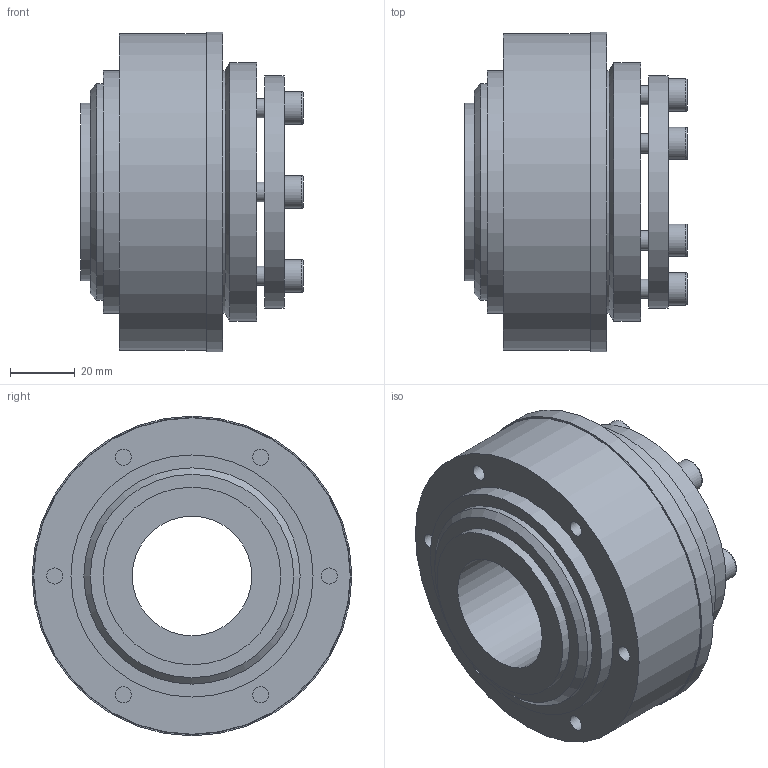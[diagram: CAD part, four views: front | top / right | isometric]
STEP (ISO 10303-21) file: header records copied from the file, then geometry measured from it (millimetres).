
FILE_DESCRIPTION(/* description */ ('STEP AP214'),/* implementation_level */ '2;1');
FILE_NAME(/* name */ 'C:\Diequa Files\DieQua Coupling\TH\STP\TH.200.63.WDG.#.stp',/* time_stamp */ '2019-02-13T16:13:31-06:00',/* author */ ('DiequaCAD'),/* organization */ (''),/* preprocessor_version */ 'ST-DEVELOPER v17.2',/* originating_system */ 'Autodesk Inventor 2019',/* authorisation */ ' ');
FILE_SCHEMA (('AUTOMOTIVE_DESIGN { 1 0 10303 214 3 1 1 }'));
Length unit declared in the file: millimetre
Products named in the file (1): TH.200.63.WDG.#
Bounding box: 69 x 99 x 99 mm (x, y, z)
Volume: 297730 mm3; surface area: 45836.9 mm2
Topology: 1 solids, 1 shells, 100 faces, 217 edges, 144 vertices
Faces by surface type: plane 63, cylinder 28, torus 7, cone 2
Full cylindrical faces by diameter (mm): 5 x6, 6 x6, 10 x6, 37 x2, 55 x1, 67 x1, 72 x1, 75 x2, 80 x1, 98 x1, 99 x1
Entity records: 2822 total; most frequent: DIRECTION 498, CARTESIAN_POINT 462, ORIENTED_EDGE 434, EDGE_CURVE 217, AXIS2_PLACEMENT_3D 180, VERTEX_POINT 144, EDGE_LOOP 139, LINE 138
